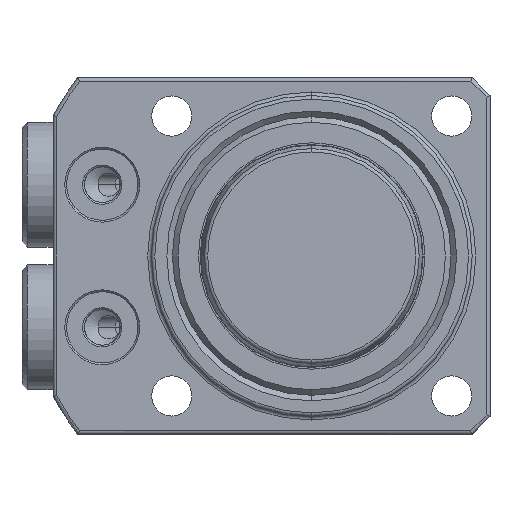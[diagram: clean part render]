
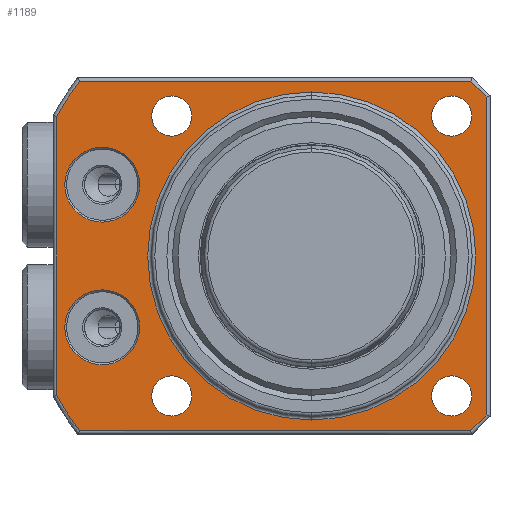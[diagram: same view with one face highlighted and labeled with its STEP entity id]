
A CAD part, front view. The second image highlights one B-rep face of the part: STEP entity #1189.
In plain terms, the highlighted planar face has unit normal (0, -1, 0) as drawn and (1, 0, 0) by its records, which use the part's own axes.
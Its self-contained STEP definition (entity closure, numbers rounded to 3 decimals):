
#837=PLANE('',#4599);
#913=FACE_BOUND('',#1677,.T.);
#914=FACE_BOUND('',#1678,.T.);
#915=FACE_BOUND('',#1679,.T.);
#916=FACE_BOUND('',#1680,.T.);
#917=FACE_BOUND('',#1681,.T.);
#918=FACE_BOUND('',#1682,.T.);
#919=FACE_BOUND('',#1683,.T.);
#920=FACE_BOUND('',#1684,.T.);
#1189=ADVANCED_FACE('',(#913,#914,#915,#916,#917,#918,#919,#920),#837,.F.);
#1677=EDGE_LOOP('',(#2479,#2480));
#1678=EDGE_LOOP('',(#2481,#2482));
#1679=EDGE_LOOP('',(#2483,#2484,#2485,#2486,#2487,#2488,#2489,#2490));
#1680=EDGE_LOOP('',(#2491,#2492));
#1681=EDGE_LOOP('',(#2493,#2494));
#1682=EDGE_LOOP('',(#2495,#2496));
#1683=EDGE_LOOP('',(#2497,#2498));
#1684=EDGE_LOOP('',(#2499,#2500));
#1948=LINE('',#6752,#2152);
#1949=LINE('',#6755,#2153);
#1950=LINE('',#6757,#2154);
#1951=LINE('',#6761,#2155);
#1952=LINE('',#6765,#2156);
#1953=LINE('',#6767,#2157);
#2152=VECTOR('',#5243,1.);
#2153=VECTOR('',#5244,1.);
#2154=VECTOR('',#5245,1.);
#2155=VECTOR('',#5248,1.);
#2156=VECTOR('',#5251,1.);
#2157=VECTOR('',#5252,1.);
#2479=ORIENTED_EDGE('',*,*,#3709,.T.);
#2480=ORIENTED_EDGE('',*,*,#3865,.T.);
#2481=ORIENTED_EDGE('',*,*,#3704,.T.);
#2482=ORIENTED_EDGE('',*,*,#3866,.T.);
#2483=ORIENTED_EDGE('',*,*,#3867,.T.);
#2484=ORIENTED_EDGE('',*,*,#3868,.T.);
#2485=ORIENTED_EDGE('',*,*,#3869,.T.);
#2486=ORIENTED_EDGE('',*,*,#3870,.T.);
#2487=ORIENTED_EDGE('',*,*,#3871,.T.);
#2488=ORIENTED_EDGE('',*,*,#3872,.T.);
#2489=ORIENTED_EDGE('',*,*,#3873,.T.);
#2490=ORIENTED_EDGE('',*,*,#3874,.T.);
#2491=ORIENTED_EDGE('',*,*,#3875,.T.);
#2492=ORIENTED_EDGE('',*,*,#3726,.T.);
#2493=ORIENTED_EDGE('',*,*,#3876,.T.);
#2494=ORIENTED_EDGE('',*,*,#3812,.T.);
#2495=ORIENTED_EDGE('',*,*,#3877,.T.);
#2496=ORIENTED_EDGE('',*,*,#3820,.T.);
#2497=ORIENTED_EDGE('',*,*,#3878,.T.);
#2498=ORIENTED_EDGE('',*,*,#3828,.T.);
#2499=ORIENTED_EDGE('',*,*,#3879,.T.);
#2500=ORIENTED_EDGE('',*,*,#3836,.T.);
#3367=VERTEX_POINT('',#6087);
#3368=VERTEX_POINT('',#6089);
#3372=VERTEX_POINT('',#6098);
#3373=VERTEX_POINT('',#6100);
#3389=VERTEX_POINT('',#6137);
#3390=VERTEX_POINT('',#6138);
#3457=VERTEX_POINT('',#6474);
#3458=VERTEX_POINT('',#6475);
#3465=VERTEX_POINT('',#6522);
#3466=VERTEX_POINT('',#6523);
#3473=VERTEX_POINT('',#6570);
#3474=VERTEX_POINT('',#6571);
#3481=VERTEX_POINT('',#6618);
#3482=VERTEX_POINT('',#6619);
#3497=VERTEX_POINT('',#6753);
#3498=VERTEX_POINT('',#6754);
#3499=VERTEX_POINT('',#6756);
#3500=VERTEX_POINT('',#6758);
#3501=VERTEX_POINT('',#6760);
#3502=VERTEX_POINT('',#6762);
#3503=VERTEX_POINT('',#6764);
#3504=VERTEX_POINT('',#6766);
#3704=EDGE_CURVE('',#3368,#3367,#4240,.T.);
#3709=EDGE_CURVE('',#3373,#3372,#4243,.T.);
#3726=EDGE_CURVE('',#3389,#3390,#4255,.T.);
#3812=EDGE_CURVE('',#3457,#3458,#4294,.T.);
#3820=EDGE_CURVE('',#3465,#3466,#4297,.T.);
#3828=EDGE_CURVE('',#3473,#3474,#4300,.T.);
#3836=EDGE_CURVE('',#3481,#3482,#4303,.T.);
#3865=EDGE_CURVE('',#3372,#3373,#4315,.T.);
#3866=EDGE_CURVE('',#3367,#3368,#4316,.T.);
#3867=EDGE_CURVE('',#3497,#3498,#1948,.T.);
#3868=EDGE_CURVE('',#3498,#3499,#1949,.T.);
#3869=EDGE_CURVE('',#3499,#3500,#1950,.T.);
#3870=EDGE_CURVE('',#3500,#3501,#4317,.T.);
#3871=EDGE_CURVE('',#3501,#3502,#1951,.T.);
#3872=EDGE_CURVE('',#3502,#3503,#4318,.T.);
#3873=EDGE_CURVE('',#3503,#3504,#1952,.T.);
#3874=EDGE_CURVE('',#3504,#3497,#1953,.T.);
#3875=EDGE_CURVE('',#3390,#3389,#4319,.T.);
#3876=EDGE_CURVE('',#3458,#3457,#4320,.T.);
#3877=EDGE_CURVE('',#3466,#3465,#4321,.T.);
#3878=EDGE_CURVE('',#3474,#3473,#4322,.T.);
#3879=EDGE_CURVE('',#3482,#3481,#4323,.T.);
#4240=CIRCLE('',#4476,4.2);
#4243=CIRCLE('',#4480,4.2);
#4255=CIRCLE('',#4496,18.4);
#4294=CIRCLE('',#4556,2.25);
#4297=CIRCLE('',#4561,2.25);
#4300=CIRCLE('',#4566,2.25);
#4303=CIRCLE('',#4571,2.25);
#4315=CIRCLE('',#4590,4.2);
#4316=CIRCLE('',#4591,4.2);
#4317=CIRCLE('',#4592,32.6);
#4318=CIRCLE('',#4593,32.6);
#4319=CIRCLE('',#4594,18.4);
#4320=CIRCLE('',#4595,2.25);
#4321=CIRCLE('',#4596,2.25);
#4322=CIRCLE('',#4597,2.25);
#4323=CIRCLE('',#4598,2.25);
#4476=AXIS2_PLACEMENT_3D('',#6088,#4947,#4948);
#4480=AXIS2_PLACEMENT_3D('',#6099,#4957,#4958);
#4496=AXIS2_PLACEMENT_3D('',#6136,#4994,#4995);
#4556=AXIS2_PLACEMENT_3D('',#6473,#5150,#5151);
#4561=AXIS2_PLACEMENT_3D('',#6521,#5164,#5165);
#4566=AXIS2_PLACEMENT_3D('',#6569,#5178,#5179);
#4571=AXIS2_PLACEMENT_3D('',#6617,#5192,#5193);
#4590=AXIS2_PLACEMENT_3D('',#6750,#5239,#5240);
#4591=AXIS2_PLACEMENT_3D('',#6751,#5241,#5242);
#4592=AXIS2_PLACEMENT_3D('',#6759,#5246,#5247);
#4593=AXIS2_PLACEMENT_3D('',#6763,#5249,#5250);
#4594=AXIS2_PLACEMENT_3D('',#6768,#5253,#5254);
#4595=AXIS2_PLACEMENT_3D('',#6769,#5255,#5256);
#4596=AXIS2_PLACEMENT_3D('',#6770,#5257,#5258);
#4597=AXIS2_PLACEMENT_3D('',#6771,#5259,#5260);
#4598=AXIS2_PLACEMENT_3D('',#6772,#5261,#5262);
#4599=AXIS2_PLACEMENT_3D('',#6773,#5263,#5264);
#4947=DIRECTION('',(-1.,0.,0.));
#4948=DIRECTION('',(0.,0.,1.));
#4957=DIRECTION('',(-1.,0.,0.));
#4958=DIRECTION('',(0.,0.,1.));
#4994=DIRECTION('',(-1.,0.,0.));
#4995=DIRECTION('',(0.,0.,1.));
#5150=DIRECTION('',(-1.,0.,0.));
#5151=DIRECTION('',(0.,0.,1.));
#5164=DIRECTION('',(-1.,0.,0.));
#5165=DIRECTION('',(0.,0.,1.));
#5178=DIRECTION('',(-1.,0.,0.));
#5179=DIRECTION('',(0.,0.,1.));
#5192=DIRECTION('',(-1.,0.,0.));
#5193=DIRECTION('',(0.,0.,1.));
#5239=DIRECTION('',(-1.,0.,0.));
#5240=DIRECTION('',(0.,0.,1.));
#5241=DIRECTION('',(-1.,0.,0.));
#5242=DIRECTION('',(0.,0.,1.));
#5243=DIRECTION('',(0.,0.,1.));
#5244=DIRECTION('',(0.,-0.707,0.707));
#5245=DIRECTION('',(0.,-1.,0.));
#5246=DIRECTION('',(1.,0.,0.));
#5247=DIRECTION('',(0.,0.,1.));
#5248=DIRECTION('',(0.,0.,-1.));
#5249=DIRECTION('',(1.,0.,0.));
#5250=DIRECTION('',(0.,0.,1.));
#5251=DIRECTION('',(0.,1.,0.));
#5252=DIRECTION('',(0.,0.707,0.707));
#5253=DIRECTION('',(-1.,0.,0.));
#5254=DIRECTION('',(0.,0.,1.));
#5255=DIRECTION('',(-1.,0.,0.));
#5256=DIRECTION('',(0.,0.,1.));
#5257=DIRECTION('',(-1.,0.,0.));
#5258=DIRECTION('',(0.,0.,1.));
#5259=DIRECTION('',(-1.,0.,0.));
#5260=DIRECTION('',(0.,0.,1.));
#5261=DIRECTION('',(-1.,0.,0.));
#5262=DIRECTION('',(0.,0.,1.));
#5263=DIRECTION('',(-1.,0.,0.));
#5264=DIRECTION('',(0.,0.,-1.));
#6087=CARTESIAN_POINT('',(0.,-23.5,12.2));
#6088=CARTESIAN_POINT('',(0.,-23.5,8.));
#6089=CARTESIAN_POINT('',(0.,-23.5,3.8));
#6098=CARTESIAN_POINT('',(0.,-23.5,-3.8));
#6099=CARTESIAN_POINT('',(0.,-23.5,-8.));
#6100=CARTESIAN_POINT('',(0.,-23.5,-12.2));
#6136=CARTESIAN_POINT('',(0.,0.,0.));
#6137=CARTESIAN_POINT('',(0.,0.,-18.4));
#6138=CARTESIAN_POINT('',(0.,0.,18.4));
#6473=CARTESIAN_POINT('',(0.,15.7,-15.7));
#6474=CARTESIAN_POINT('',(0.,15.7,-17.95));
#6475=CARTESIAN_POINT('',(0.,15.7,-13.45));
#6521=CARTESIAN_POINT('',(0.,15.7,15.7));
#6522=CARTESIAN_POINT('',(0.,15.7,13.45));
#6523=CARTESIAN_POINT('',(0.,15.7,17.95));
#6569=CARTESIAN_POINT('',(0.,-15.7,15.7));
#6570=CARTESIAN_POINT('',(0.,-15.7,13.45));
#6571=CARTESIAN_POINT('',(0.,-15.7,17.95));
#6617=CARTESIAN_POINT('',(0.,-15.7,-15.7));
#6618=CARTESIAN_POINT('',(0.,-15.7,-17.95));
#6619=CARTESIAN_POINT('',(0.,-15.7,-13.45));
#6750=CARTESIAN_POINT('',(0.,-23.5,-8.));
#6751=CARTESIAN_POINT('',(0.,-23.5,8.));
#6752=CARTESIAN_POINT('',(0.,19.6,18.));
#6753=CARTESIAN_POINT('',(0.,19.6,-17.834));
#6754=CARTESIAN_POINT('',(0.,19.6,17.834));
#6755=CARTESIAN_POINT('',(0.,17.717,19.717));
#6756=CARTESIAN_POINT('',(0.,17.834,19.6));
#6757=CARTESIAN_POINT('',(0.,-26.249,19.6));
#6758=CARTESIAN_POINT('',(0.,-26.05,19.6));
#6759=CARTESIAN_POINT('',(0.,0.,0.));
#6760=CARTESIAN_POINT('',(0.,-28.6,15.646));
#6761=CARTESIAN_POINT('',(0.,-28.6,-15.748));
#6762=CARTESIAN_POINT('',(0.,-28.6,-15.646));
#6763=CARTESIAN_POINT('',(0.,0.,0.));
#6764=CARTESIAN_POINT('',(0.,-26.05,-19.6));
#6765=CARTESIAN_POINT('',(0.,18.,-19.6));
#6766=CARTESIAN_POINT('',(0.,17.834,-19.6));
#6767=CARTESIAN_POINT('',(0.,19.717,-17.717));
#6768=CARTESIAN_POINT('',(0.,0.,0.));
#6769=CARTESIAN_POINT('',(0.,15.7,-15.7));
#6770=CARTESIAN_POINT('',(0.,15.7,15.7));
#6771=CARTESIAN_POINT('',(0.,-15.7,15.7));
#6772=CARTESIAN_POINT('',(0.,-15.7,-15.7));
#6773=CARTESIAN_POINT('',(0.,0.,0.));
